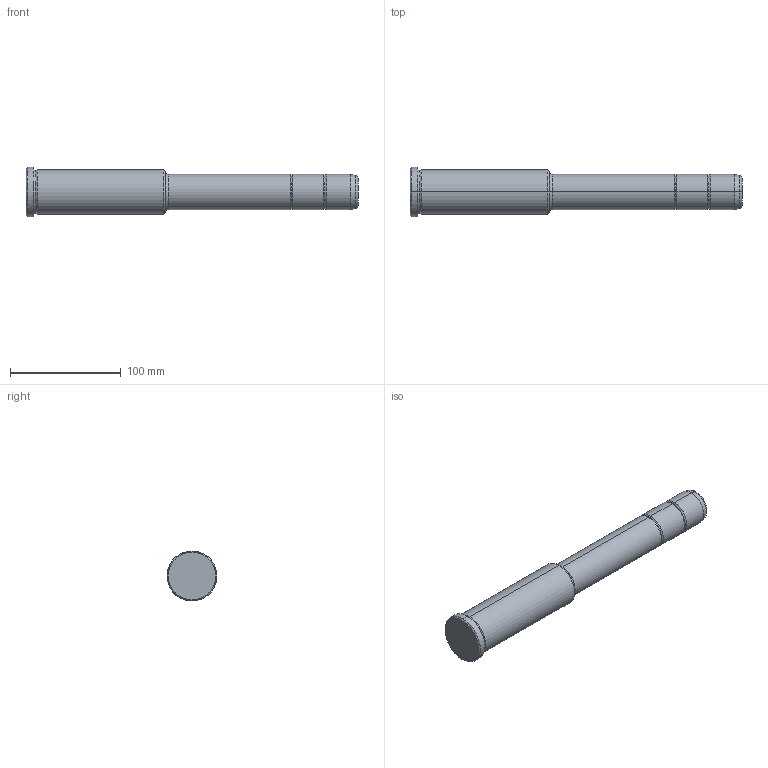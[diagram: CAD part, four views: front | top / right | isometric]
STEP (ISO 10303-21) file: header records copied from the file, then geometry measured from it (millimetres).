
FILE_DESCRIPTION(('CATIA V5 STEP Exchange'),'2;1');
FILE_NAME('C:\Users\Utente\Desktop\IO LAVORO\3D X SITO CF\X SITO\PLASTICA\351\351-32X126X300.stp','2021-09-15T12:22:53+00:00',('none'),('none'),'CATIA Version 5 Release 20 GA (IN-10)','CATIA V5 STEP AP203','none');
FILE_SCHEMA(('CONFIG_CONTROL_DESIGN'));
Length unit declared in the file: millimetre
Products named in the file (1): 351-32X126X300
Bounding box: 300 x 45 x 45 mm (x, y, z)
Volume: 299406.7 mm3; surface area: 36187.5 mm2
Topology: 1 solids, 1 shells, 36 faces, 102 edges, 70 vertices
Faces by surface type: torus 16, cylinder 10, cone 6, plane 4
Entity records: 1292 total; most frequent: CARTESIAN_POINT 321, ORIENTED_EDGE 204, DIRECTION 166, AXIS2_PLACEMENT_3D 115, EDGE_CURVE 102, CIRCLE 78, VERTEX_POINT 70, EDGE_LOOP 38
